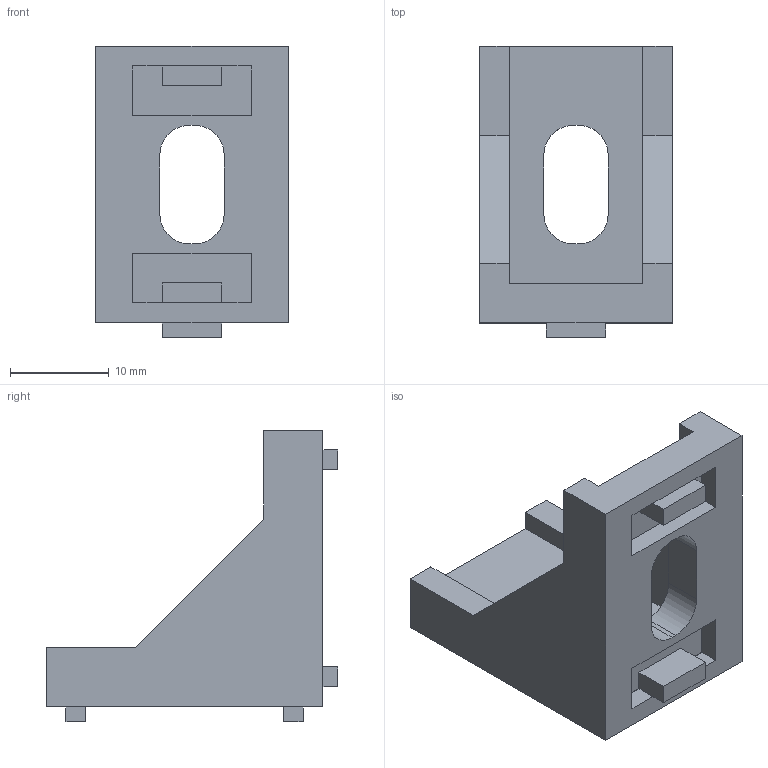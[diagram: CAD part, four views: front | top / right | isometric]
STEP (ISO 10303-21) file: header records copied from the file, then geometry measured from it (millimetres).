
FILE_DESCRIPTION (( 'STEP AP203' ), '1' );
FILE_NAME ('1024.STEP', '2016-03-27T14:33:44', ( '' ), ( '' ), 'SwSTEP 2.0', 'SolidWorks 2014', '' );
FILE_SCHEMA (( 'CONFIG_CONTROL_DESIGN' ));
Length unit declared in the file: millimetre
Products named in the file (1): 1024
Bounding box: 19.5 x 29.5 x 29.5 mm (x, y, z)
Volume: 4232.9 mm3; surface area: 3631.6 mm2
Topology: 1 solids, 1 shells, 76 faces, 202 edges, 132 vertices
Faces by surface type: plane 68, cylinder 8
Entity records: 2403 total; most frequent: CARTESIAN_POINT 411, ORIENTED_EDGE 404, DIRECTION 372, EDGE_CURVE 202, VECTOR 186, LINE 186, VERTEX_POINT 132, AXIS2_PLACEMENT_3D 93
